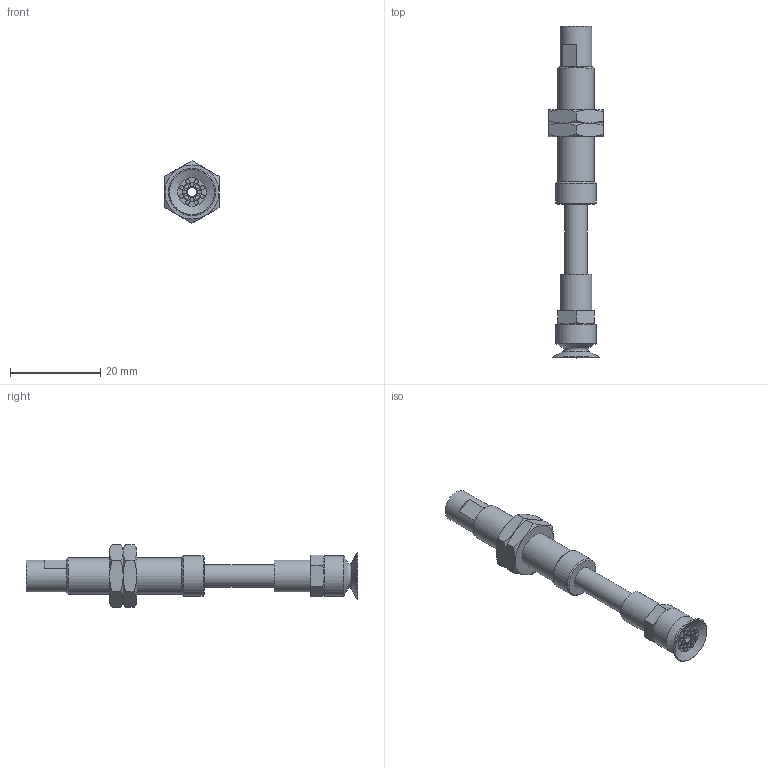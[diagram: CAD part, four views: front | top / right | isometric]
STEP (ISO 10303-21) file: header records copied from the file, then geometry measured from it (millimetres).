
FILE_DESCRIPTION(('STEP AP203'),'1');
FILE_NAME('-PE.stp','2025-04-01T05:10:16',(' '),(' '),'Spatial InterOp 3D',' ',' ');
FILE_SCHEMA(('CONFIG_CONTROL_DESIGN'));
Length unit declared in the file: millimetre
Products named in the file (9): BNABPATS-10A-15-※-PE; NUT; BODY; STOPPER; ZIG; TN-PS-10-M5; Setting screws-TN-PS-10-M5; BPAG-10A-※
Assembly tree (8 placements, depth 3):
  BNABPATS-10A-15-※-PE
    NUT
    NUT
    BODY
    STOPPER
    ZIG
    TN-PS-10-M5
      Setting screws-TN-PS-10-M5
    BPAG-10A-※
Bounding box: 12 x 73.5 x 13.86 mm (x, y, z)
Volume: 3091.2 mm3; surface area: 4695.8 mm2
Topology: 7 solids, 7 shells, 176 faces, 347 edges, 214 vertices
Faces by surface type: plane 77, cone 48, cylinder 42, torus 9
Full cylindrical faces by diameter (mm): 0.9 x16, 2 x3, 3.4 x1, 3.5 x1, 3.9 x1, 4 x5, 4.2 x2, 5 x3, 5.2 x1, 6 x2, 7 x2, 7.25 x2, 8 x1, 9 x2
Entity records: 4572 total; most frequent: CARTESIAN_POINT 832, DIRECTION 722, ORIENTED_EDGE 526, AXIS2_PLACEMENT_3D 333, EDGE_LOOP 288, EDGE_CURVE 263, FACE_OUTER_BOUND 227, VERTEX_POINT 199
